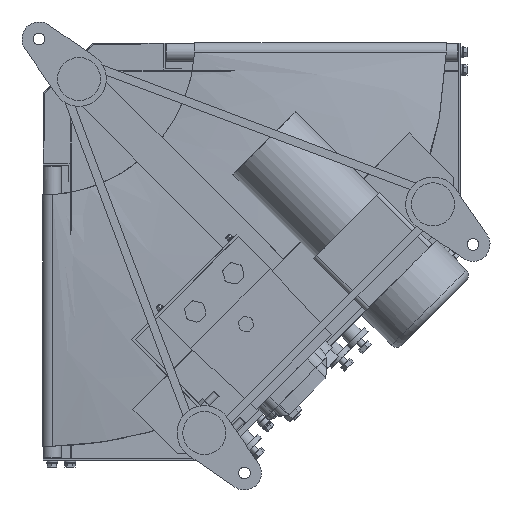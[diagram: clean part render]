
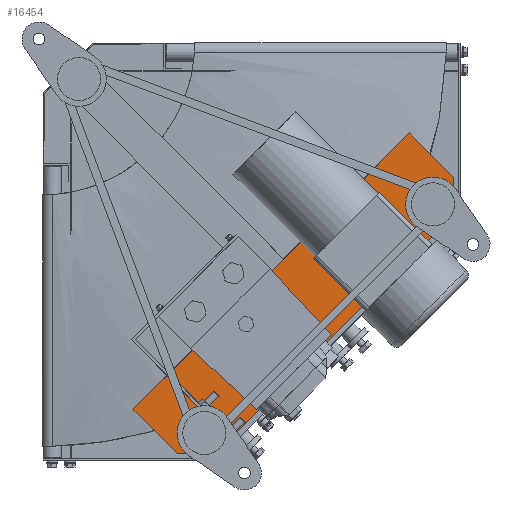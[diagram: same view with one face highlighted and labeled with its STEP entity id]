
A CAD part, front view. The second image highlights one B-rep face of the part: STEP entity #16454.
In plain terms, the highlighted planar face has unit normal (0, -1, 0).
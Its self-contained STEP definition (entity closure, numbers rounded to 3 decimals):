
#1806 = CARTESIAN_POINT ( 'NONE',  ( 407.647, -167.5, -100.056 ) ) ;
#2822 = CARTESIAN_POINT ( 'NONE',  ( 457.145, -167.5, -191.979 ) ) ;
#2870 = VERTEX_POINT ( 'NONE', #1806 ) ;
#3697 = DIRECTION ( 'NONE',  ( 0., 0., 1. ) ) ;
#4156 = VERTEX_POINT ( 'NONE', #5125 ) ;
#5117 = CARTESIAN_POINT ( 'NONE',  ( 407.647, -167.5, -100.056 ) ) ;
#5125 = CARTESIAN_POINT ( 'NONE',  ( 100.056, -167.5, -407.647 ) ) ;
#6285 = DIRECTION ( 'NONE',  ( -0.707, 0., 0.707 ) ) ;
#6521 = DIRECTION ( 'NONE',  ( -0.707, 0., -0.707 ) ) ;
#7360 = PLANE ( 'NONE',  #48210 ) ;
#9394 = CARTESIAN_POINT ( 'NONE',  ( 149.553, -167.5, -457.145 ) ) ;
#9832 = VECTOR ( 'NONE', #6521, 1000. ) ;
#12595 = EDGE_CURVE ( 'NONE', #21791, #47011, #16568, .T. ) ;
#12657 = ORIENTED_EDGE ( 'NONE', *, *, #38164, .F. ) ;
#13144 = EDGE_CURVE ( 'NONE', #4156, #2870, #31243, .T. ) ;
#14470 = CARTESIAN_POINT ( 'NONE',  ( 191.979, -167.5, -457.145 ) ) ;
#16454 = ADVANCED_FACE ( 'NONE', ( #45301 ), #7360, .F. ) ;
#16568 = LINE ( 'NONE', #19769, #31353 ) ;
#18162 = CARTESIAN_POINT ( 'NONE',  ( 100.056, -167.5, -407.647 ) ) ;
#18536 = CARTESIAN_POINT ( 'NONE',  ( 457.145, -167.5, -191.979 ) ) ;
#18872 = LINE ( 'NONE', #2822, #46050 ) ;
#19769 = CARTESIAN_POINT ( 'NONE',  ( 149.553, -167.5, -457.145 ) ) ;
#19885 = LINE ( 'NONE', #14470, #9832 ) ;
#20371 = DIRECTION ( 'NONE',  ( 0.707, 0., -0.707 ) ) ;
#21791 = VERTEX_POINT ( 'NONE', #46354 ) ;
#22413 = ORIENTED_EDGE ( 'NONE', *, *, #44842, .F. ) ;
#23301 = LINE ( 'NONE', #18162, #44608 ) ;
#24777 = EDGE_LOOP ( 'NONE', ( #36029, #34550, #35501, #22413, #43929, #12657 ) ) ;
#24911 = VECTOR ( 'NONE', #20371, 1000. ) ;
#25458 = DIRECTION ( 'NONE',  ( 0., 0., -1. ) ) ;
#25894 = CARTESIAN_POINT ( 'NONE',  ( 100.056, -167.5, -407.647 ) ) ;
#26339 = CARTESIAN_POINT ( 'NONE',  ( 0., -167.5, 0. ) ) ;
#29136 = EDGE_CURVE ( 'NONE', #2870, #30694, #43279, .T. ) ;
#30694 = VERTEX_POINT ( 'NONE', #44588 ) ;
#31243 = LINE ( 'NONE', #25894, #33023 ) ;
#31353 = VECTOR ( 'NONE', #34810, 1000. ) ;
#33023 = VECTOR ( 'NONE', #48554, 1000. ) ;
#33495 = DIRECTION ( 'NONE',  ( 0., 1., 0. ) ) ;
#34550 = ORIENTED_EDGE ( 'NONE', *, *, #29136, .F. ) ;
#34810 = DIRECTION ( 'NONE',  ( -1., 0., 0. ) ) ;
#35501 = ORIENTED_EDGE ( 'NONE', *, *, #13144, .F. ) ;
#36029 = ORIENTED_EDGE ( 'NONE', *, *, #40627, .F. ) ;
#38164 = EDGE_CURVE ( 'NONE', #44315, #21791, #19885, .T. ) ;
#40627 = EDGE_CURVE ( 'NONE', #30694, #44315, #18872, .T. ) ;
#43279 = LINE ( 'NONE', #5117, #24911 ) ;
#43929 = ORIENTED_EDGE ( 'NONE', *, *, #12595, .F. ) ;
#44315 = VERTEX_POINT ( 'NONE', #18536 ) ;
#44588 = CARTESIAN_POINT ( 'NONE',  ( 457.145, -167.5, -149.553 ) ) ;
#44608 = VECTOR ( 'NONE', #6285, 1000. ) ;
#44842 = EDGE_CURVE ( 'NONE', #47011, #4156, #23301, .T. ) ;
#45301 = FACE_OUTER_BOUND ( 'NONE', #24777, .T. ) ;
#46050 = VECTOR ( 'NONE', #25458, 1000. ) ;
#46354 = CARTESIAN_POINT ( 'NONE',  ( 191.979, -167.5, -457.145 ) ) ;
#47011 = VERTEX_POINT ( 'NONE', #9394 ) ;
#48210 = AXIS2_PLACEMENT_3D ( 'NONE', #26339, #33495, #3697 ) ;
#48554 = DIRECTION ( 'NONE',  ( 0.707, 0., 0.707 ) ) ;
